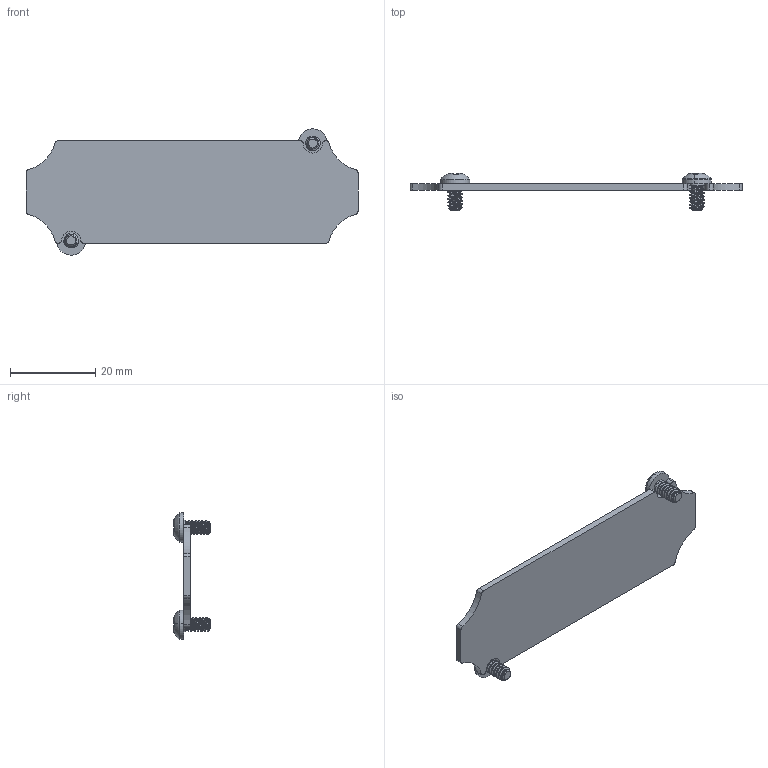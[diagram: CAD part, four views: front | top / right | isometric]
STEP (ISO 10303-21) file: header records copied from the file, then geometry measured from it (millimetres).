
FILE_DESCRIPTION (( 'STEP AP214' ), '1' );
FILE_NAME ('AN-00K.step', '2026-09-17T19:32:22', ( '' ), ( '' ), 'SwSTEP 2.0', 'SolidWorks 2026', '' );
FILE_SCHEMA (( 'AUTOMOTIVE_DESIGN' ));
Length unit declared in the file: inch
Products named in the file (3): SCREWS-050; AN-00-P_DEFAULT; AN-00K
Assembly tree (3 placements, depth 2):
  AN-00K
    AN-00-P_DEFAULT
    SCREWS-050  x2
Bounding box: 77.9 x 8.8 x 29.65 mm (x, y, z)
Volume: 2832.7 mm3; surface area: 4135.6 mm2
Topology: 3 solids, 3 shells, 697 faces, 1689 edges, 996 vertices
Faces by surface type: bspline 368, cylinder 175, plane 58, sphere 48, cone 40, torus 8
Entity records: 17271 total; most frequent: CARTESIAN_POINT 10041, ORIENTED_EDGE 1760, DIRECTION 1032, EDGE_CURVE 880, VERTEX_POINT 523, B_SPLINE_CURVE_WITH_KNOTS 415, AXIS2_PLACEMENT_3D 383, EDGE_LOOP 363
